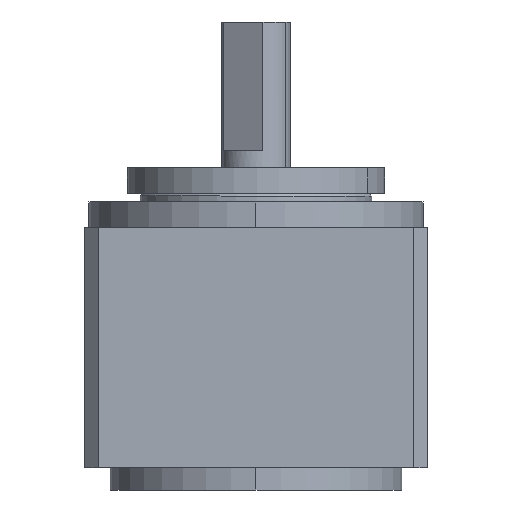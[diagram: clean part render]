
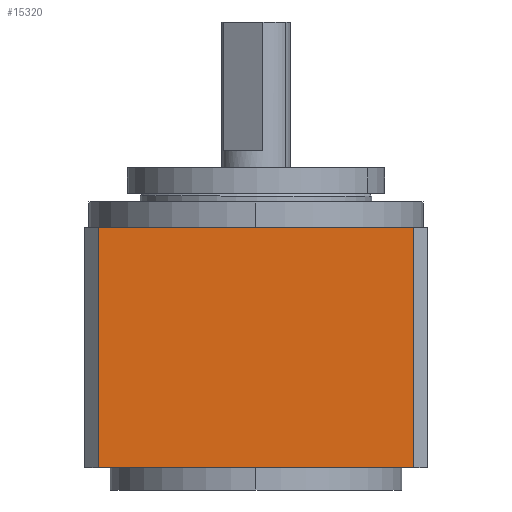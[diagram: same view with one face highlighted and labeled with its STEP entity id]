
A CAD part, left-side view. The second image highlights one B-rep face of the part: STEP entity #15320.
In plain terms, the highlighted planar face has unit normal (-1, 0, 0).
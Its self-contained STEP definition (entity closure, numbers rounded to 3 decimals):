
#233 = CARTESIAN_POINT ( 'NONE',  ( -10., -9.2, 14. ) ) ;
#991 = CARTESIAN_POINT ( 'NONE',  ( -10., -10., 14. ) ) ;
#1228 = DIRECTION ( 'NONE',  ( 0., 0., -1. ) ) ;
#2143 = AXIS2_PLACEMENT_3D ( 'NONE', #991, #9669, #2280 ) ;
#2280 = DIRECTION ( 'NONE',  ( 0., 0., -1. ) ) ;
#2414 = VECTOR ( 'NONE', #1228, 1000. ) ;
#2432 = DIRECTION ( 'NONE',  ( 0., 1., 0. ) ) ;
#2835 = EDGE_CURVE ( 'NONE', #9221, #14295, #14171, .T. ) ;
#3028 = CARTESIAN_POINT ( 'NONE',  ( -10., 0., 14. ) ) ;
#3115 = ORIENTED_EDGE ( 'NONE', *, *, #12316, .F. ) ;
#3197 = CARTESIAN_POINT ( 'NONE',  ( -10., -9.2, 0. ) ) ;
#3334 = LINE ( 'NONE', #3028, #13237 ) ;
#4602 = VECTOR ( 'NONE', #6260, 1000. ) ;
#4946 = CARTESIAN_POINT ( 'NONE',  ( -10., -9.2, 14. ) ) ;
#5038 = FACE_OUTER_BOUND ( 'NONE', #7587, .T. ) ;
#5569 = CARTESIAN_POINT ( 'NONE',  ( -10., 9.2, 14. ) ) ;
#5729 = LINE ( 'NONE', #11155, #12344 ) ;
#6042 = VERTEX_POINT ( 'NONE', #233 ) ;
#6260 = DIRECTION ( 'NONE',  ( 0., 0., 1. ) ) ;
#6721 = DIRECTION ( 'NONE',  ( 0., 1., 0. ) ) ;
#7175 = PLANE ( 'NONE',  #2143 ) ;
#7587 = EDGE_LOOP ( 'NONE', ( #3115, #11171, #9551, #8185 ) ) ;
#8185 = ORIENTED_EDGE ( 'NONE', *, *, #9739, .F. ) ;
#8709 = CARTESIAN_POINT ( 'NONE',  ( -10., 9.2, 0. ) ) ;
#9221 = VERTEX_POINT ( 'NONE', #8709 ) ;
#9551 = ORIENTED_EDGE ( 'NONE', *, *, #2835, .F. ) ;
#9669 = DIRECTION ( 'NONE',  ( 1., 0., 0. ) ) ;
#9739 = EDGE_CURVE ( 'NONE', #13261, #9221, #5729, .T. ) ;
#11155 = CARTESIAN_POINT ( 'NONE',  ( -10., 0., 0. ) ) ;
#11171 = ORIENTED_EDGE ( 'NONE', *, *, #13103, .T. ) ;
#12316 = EDGE_CURVE ( 'NONE', #6042, #13261, #15295, .T. ) ;
#12344 = VECTOR ( 'NONE', #2432, 1000. ) ;
#13103 = EDGE_CURVE ( 'NONE', #6042, #14295, #3334, .T. ) ;
#13237 = VECTOR ( 'NONE', #6721, 1000. ) ;
#13261 = VERTEX_POINT ( 'NONE', #3197 ) ;
#14171 = LINE ( 'NONE', #5569, #4602 ) ;
#14295 = VERTEX_POINT ( 'NONE', #15731 ) ;
#15295 = LINE ( 'NONE', #4946, #2414 ) ;
#15320 = ADVANCED_FACE ( 'NONE', ( #5038 ), #7175, .F. ) ;
#15731 = CARTESIAN_POINT ( 'NONE',  ( -10., 9.2, 14. ) ) ;
